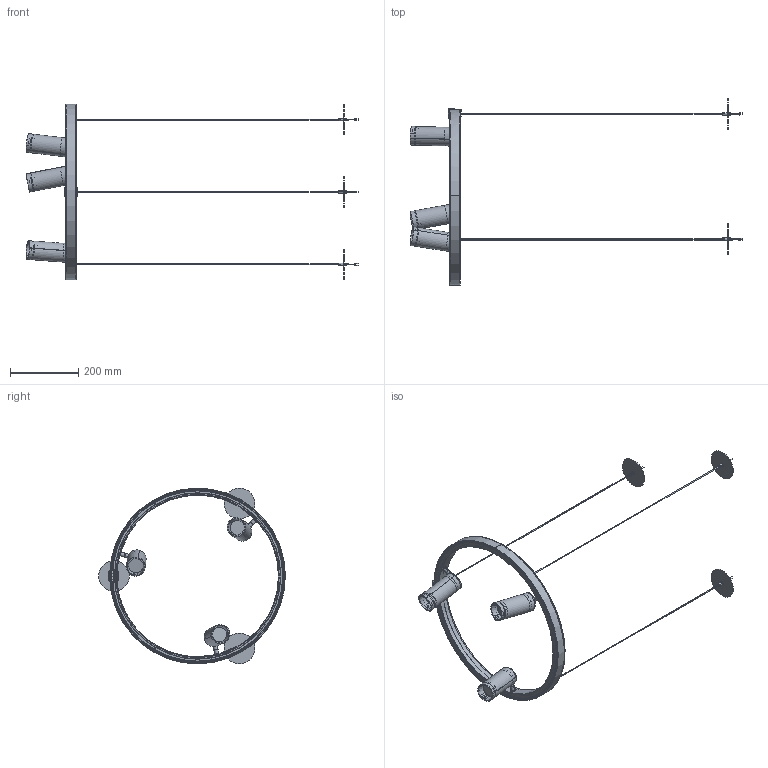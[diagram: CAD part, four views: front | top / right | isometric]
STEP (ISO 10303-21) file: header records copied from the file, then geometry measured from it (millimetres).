
FILE_DESCRIPTION (( 'STEP AP214' ), '1' );
FILE_NAME ('Space55_Ø500.STEP', '2024-05-30T10:17:29', ( '' ), ( '' ), 'SwSTEP 2.0', 'SolidWorks 2024', '' );
FILE_SCHEMA (( 'AUTOMOTIVE_DESIGN' ));
Length unit declared in the file: millimetre
Products named in the file (1): Space55_Ø500
Bounding box: 973.67 x 547.86 x 515.02 mm (x, y, z)
Volume: 601847.7 mm3; surface area: 628730.8 mm2
Topology: 16 solids, 18 shells, 2627 faces, 6585 edges, 3979 vertices
Faces by surface type: plane 994, cylinder 706, cone 513, torus 203, bspline 157, sphere 54
Entity records: 96088 total; most frequent: CARTESIAN_POINT 34305, ORIENTED_EDGE 13122, DIRECTION 12855, EDGE_CURVE 6561, AXIS2_PLACEMENT_3D 4935, VERTEX_POINT 3979, LINE 2985, VECTOR 2985
